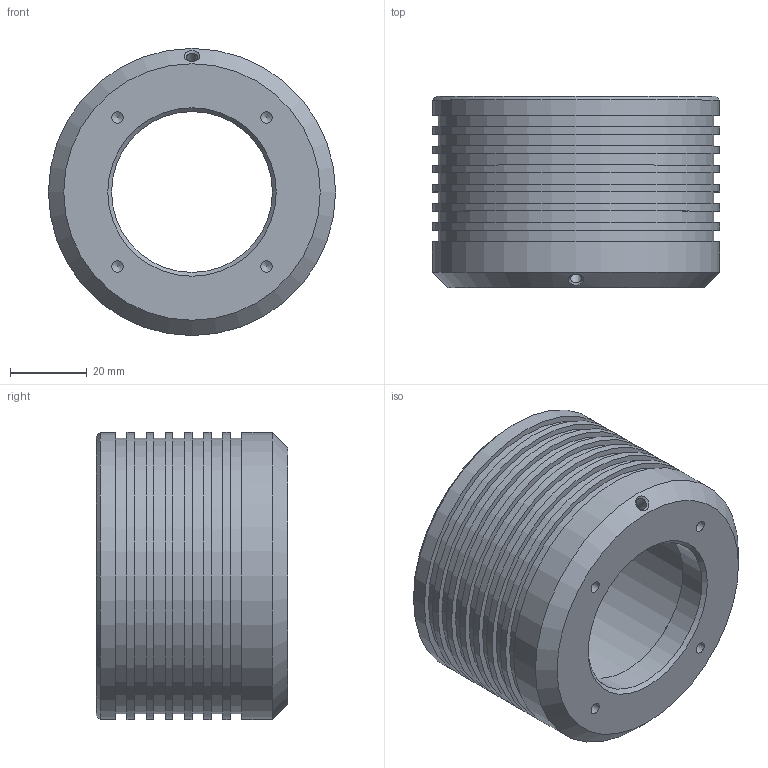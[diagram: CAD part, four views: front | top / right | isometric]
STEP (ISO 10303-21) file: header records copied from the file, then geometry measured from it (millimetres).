
FILE_DESCRIPTION((''),'2;1');
FILE_NAME('D:\上海创波-20181114\2-三维图纸\1-常用光源\WLDR系列\WLDR2系列-xxAGxx\WLDR2-UM75-.stp','2020-02-07T10:09:49',('Administrator'),(''),'Autodesk Inventor 2010','Autodesk Inventor 2010','');
FILE_SCHEMA(('AUTOMOTIVE_DESIGN { 1 0 10303 214 1 1 1 1 }'));
Length unit declared in the file: millimetre
Products named in the file (1): 零件23
Bounding box: 75 x 50 x 75 mm (x, y, z)
Volume: 62103.2 mm3; surface area: 49324.9 mm2
Topology: 1 solids, 9 shells, 177 faces, 359 edges, 217 vertices
Faces by surface type: plane 116, cylinder 29, bspline 21, cone 7, torus 4
Full cylindrical faces by diameter (mm): 2 x4, 3 x1, 3.2 x4, 42 x1, 52 x1, 57 x1, 69.2 x1, 72 x7, 75 x8
Entity records: 4566 total; most frequent: CARTESIAN_POINT 1064, DIRECTION 700, ORIENTED_EDGE 540, AXIS2_PLACEMENT_3D 278, EDGE_CURVE 270, EDGE_LOOP 265, VERTEX_POINT 187, STYLED_ITEM 178
